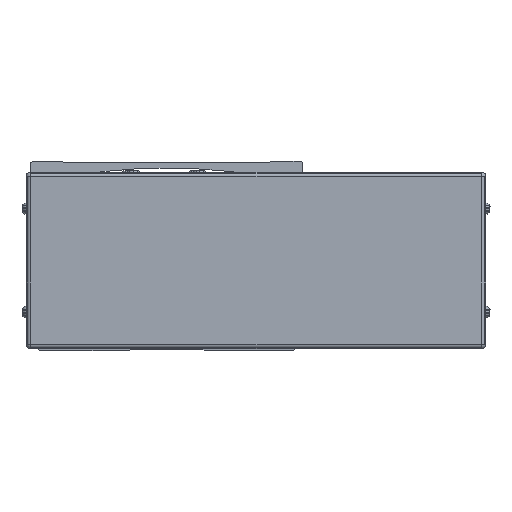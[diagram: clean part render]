
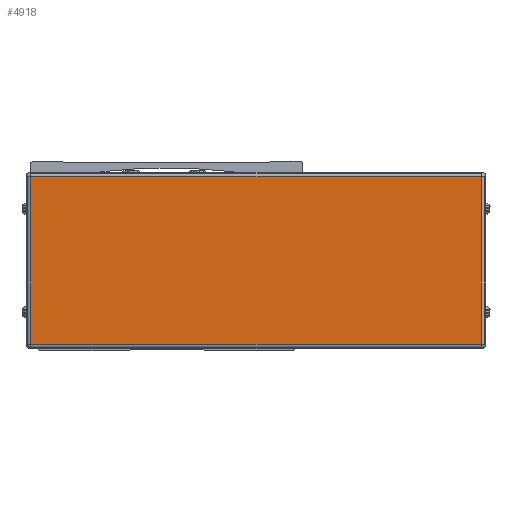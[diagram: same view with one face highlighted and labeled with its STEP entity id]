
A CAD part, front view. The second image highlights one B-rep face of the part: STEP entity #4918.
In plain terms, the highlighted planar face has unit normal (0, -1, 0).
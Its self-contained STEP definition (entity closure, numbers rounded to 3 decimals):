
#4918=ADVANCED_FACE('',(#10451),#10452,.T.);
#10451=FACE_OUTER_BOUND('',#17730,.T.);
#10452=PLANE('',#17731);
#17730=EDGE_LOOP('',(#32130,#32131,#32132,#32133));
#17731=AXIS2_PLACEMENT_3D('',#32134,#32135,#32136);
#32130=ORIENTED_EDGE('',*,*,#38746,.F.);
#32131=ORIENTED_EDGE('',*,*,#44261,.F.);
#32132=ORIENTED_EDGE('',*,*,#42620,.F.);
#32133=ORIENTED_EDGE('',*,*,#44262,.F.);
#32134=CARTESIAN_POINT('',(-259.5,-313.778,-8.));
#32135=DIRECTION('',(0.,-1.0,0.));
#32136=DIRECTION('',(1.0,0.,0.));
#38746=EDGE_CURVE('',#46188,#46190,#46191,.T.);
#42620=EDGE_CURVE('',#52482,#52484,#52485,.T.);
#44261=EDGE_CURVE('',#52484,#46188,#54648,.T.);
#44262=EDGE_CURVE('',#46190,#52482,#54649,.T.);
#46188=VERTEX_POINT('',#57032);
#46190=VERTEX_POINT('',#57034);
#46191=LINE('',#57035,#57036);
#52482=VERTEX_POINT('',#66233);
#52484=VERTEX_POINT('',#66235);
#52485=LINE('',#66236,#66237);
#54648=LINE('',#69545,#69546);
#54649=LINE('',#69547,#69548);
#57032=CARTESIAN_POINT('',(-157.3,-313.778,30.));
#57034=CARTESIAN_POINT('',(-157.3,-313.778,-46.));
#57035=CARTESIAN_POINT('',(-157.3,-313.778,-8.));
#57036=VECTOR('',#72043,10.0);
#66233=CARTESIAN_POINT('',(-361.7,-313.778,-46.));
#66235=CARTESIAN_POINT('',(-361.7,-313.778,30.));
#66236=CARTESIAN_POINT('',(-361.7,-313.778,-8.));
#66237=VECTOR('',#76847,10.0);
#69545=CARTESIAN_POINT('',(-259.5,-313.778,30.));
#69546=VECTOR('',#78609,10.0);
#69547=CARTESIAN_POINT('',(-259.5,-313.778,-46.));
#69548=VECTOR('',#78610,10.0);
#72043=DIRECTION('',(0.0,0.,-1.0));
#76847=DIRECTION('',(0.0,0.,1.0));
#78609=DIRECTION('',(1.0,0.,0.));
#78610=DIRECTION('',(-1.0,0.,0.));
